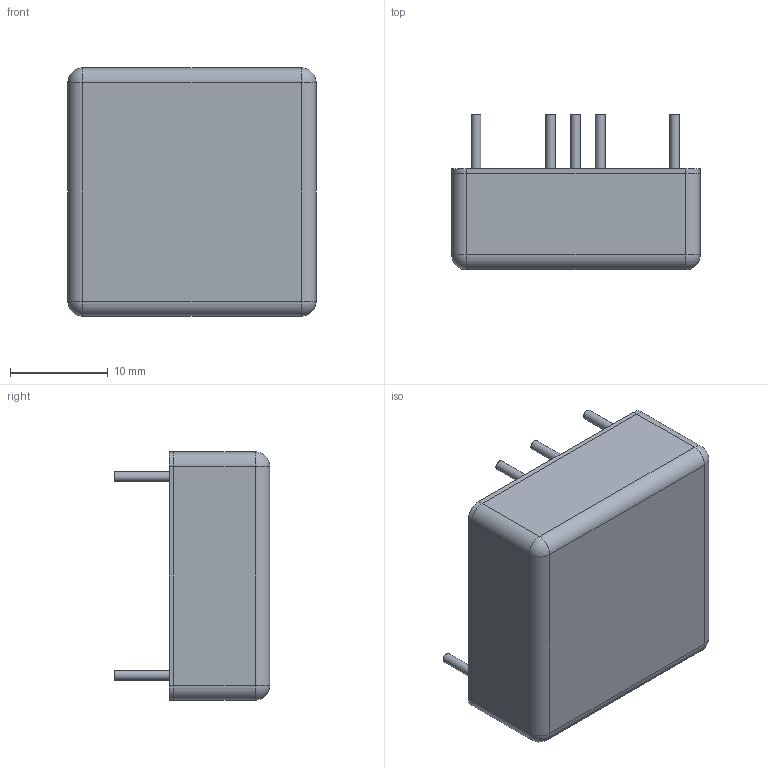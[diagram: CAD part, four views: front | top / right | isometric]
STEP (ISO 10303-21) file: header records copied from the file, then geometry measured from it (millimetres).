
FILE_DESCRIPTION (( 'STEP AP203' ), '1' );
FILE_NAME ('EC4SBW-XXSXX 2021.06.24.STEP', '2021-06-25T07:46:30', ( '' ), ( '' ), 'SwSTEP 2.0', 'SolidWorks 2020', '' );
FILE_SCHEMA (( 'CONFIG_CONTROL_DESIGN' ));
Length unit declared in the file: millimetre
Products named in the file (4): EC3SB & EC2SB CASE 25.4x25.4x9.8(M-G002-02-R)G5107750014,G5107751734; EC3SB & EC2SB series DIP TYPE BASE(M-G015-01-M)G5214910B10; EC4SBW-XXSXX PIN+Glue 2021.06.24; EC4SBW-XXSXX 2021.06.24
Assembly tree (3 placements, depth 2):
  EC4SBW-XXSXX 2021.06.24
    EC3SB & EC2SB CASE 25.4x25.4x9.8(M-G002-02-R)G5107750014,G5107751734
    EC3SB & EC2SB series DIP TYPE BASE(M-G015-01-M)G5214910B10
    EC4SBW-XXSXX PIN+Glue 2021.06.24
Bounding box: 25.4 x 15.9 x 25.4 mm (x, y, z)
Volume: 6604.5 mm3; surface area: 6551.9 mm2
Topology: 3 solids, 3 shells, 113 faces, 281 edges, 172 vertices
Faces by surface type: cylinder 46, plane 45, sphere 12, cone 9, bspline 1
Full cylindrical faces by diameter (mm): 1 x6
Entity records: 4015 total; most frequent: CARTESIAN_POINT 951, DIRECTION 578, ORIENTED_EDGE 508, EDGE_CURVE 254, AXIS2_PLACEMENT_3D 228, VERTEX_POINT 172, EDGE_LOOP 158, VECTOR 122
